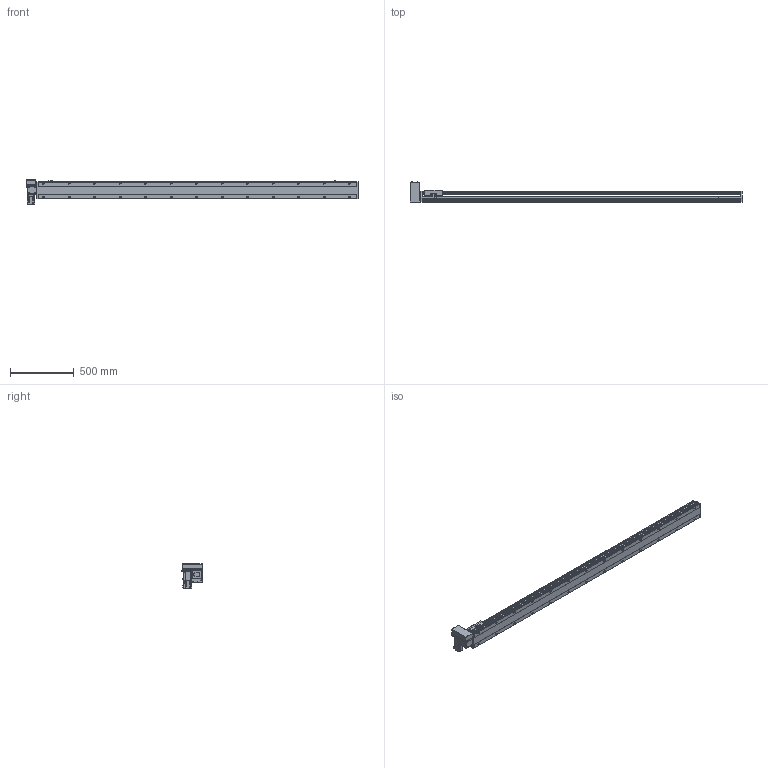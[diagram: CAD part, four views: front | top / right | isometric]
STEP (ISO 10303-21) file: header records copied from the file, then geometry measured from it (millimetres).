
FILE_DESCRIPTION(/* description */ ('STEP AP214'),/* implementation_level */ '2;1');
FILE_NAME(/* name */ 'PBS140S-P40-S2250-RU-T40-C1-N(0)',/* time_stamp */ '2022-06-09T02:56:33+02:00',/* author */ ('License CC BY-ND 4.0'),/* organization */ ('CADENAS'),/* preprocessor_version */ 'ST-DEVELOPER v18.102',/* originating_system */ 'PARTsolutions',/* authorisation */ ' ');
FILE_SCHEMA (('AUTOMOTIVE_DESIGN {1 0 10303 214 3 1 1}'));
Length unit declared in the file: millimetre
Products named in the file (7): PBS140S-P40-S2250-RU-T40-C1-N(0); PBS140S_sensor; PBS140S_plant; PBS140S_sliser; T40-p1; PBS140ST-RU_motors; PBS140S-S2250()_body
Assembly tree (8 placements, depth 2):
  PBS140S-P40-S2250-RU-T40-C1-N(0)
    PBS140S_sensor  x3
    PBS140S_plant
    PBS140S_sliser
    T40-p1
    PBS140ST-RU_motors
    PBS140S-S2250()_body
Bounding box: 2604 x 162.5 x 189.7 mm (x, y, z)
Volume: 12732996.3 mm3; surface area: 2149982.8 mm2
Topology: 8 solids, 8 shells, 1179 faces, 3111 edges, 2035 vertices
Faces by surface type: plane 732, cylinder 385, cone 52, sphere 8, torus 2
Full cylindrical faces by diameter (mm): 3.242 x4, 4 x2, 4.134 x4, 4.4 x8, 4.5 x2, 4.8 x4, 4.917 x34, 5.5 x7, 6 x2, 7 x28, 7.5 x8, 8 x12, 8.5 x4, 10.5 x26, 14 x1, 30 x2, 50 x2
Entity records: 33786 total; most frequent: CARTESIAN_POINT 6376, DIRECTION 5698, ORIENTED_EDGE 5362, EDGE_CURVE 2681, AXIS2_PLACEMENT_3D 2009, VERTEX_POINT 1873, LINE 1680, VECTOR 1680
